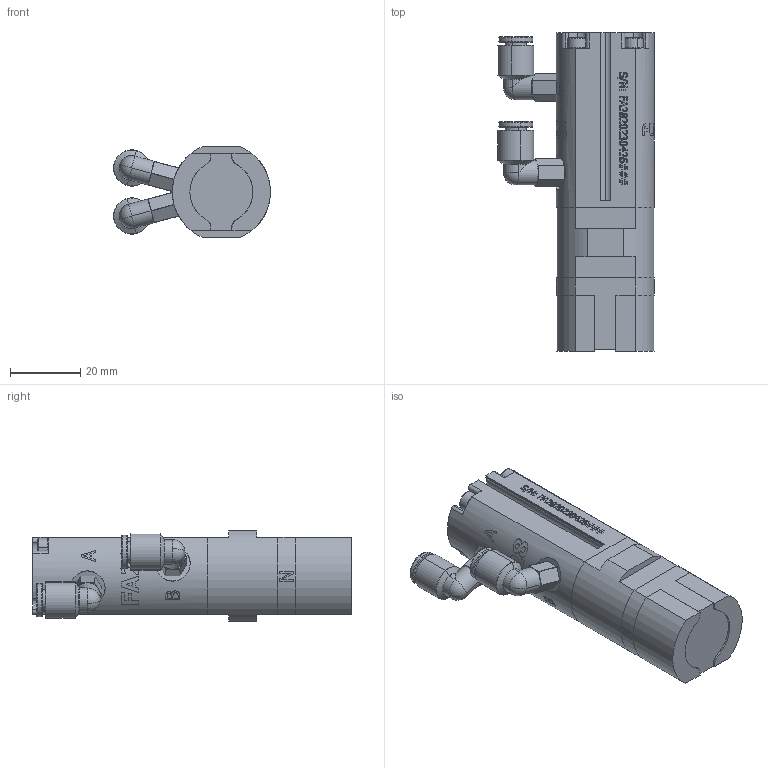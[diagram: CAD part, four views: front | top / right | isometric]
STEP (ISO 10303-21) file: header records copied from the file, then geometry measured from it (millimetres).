
FILE_DESCRIPTION (( 'STEP AP214' ), '1' );
FILE_NAME ('9970112_FA28-S-0 (FOR SHARE).STEP', '2024-02-27T03:45:36', ( '' ), ( '' ), 'SwSTEP 2.0', 'SolidWorks 2021', '' );
FILE_SCHEMA (( 'AUTOMOTIVE_DESIGN' ));
Length unit declared in the file: millimetre
Products named in the file (11): 180027_ M5-6mm_plug-in airport; 150048_M3X75_SHCS_304(FOR SHARE)_91292A316; 9070005 - FA28 (FOR SHARE); 110031_FA28 actuator top(FOR SHARE); 160029_2.5X8__SUS304_默认; 4060031_FA28 std flat pole kit_默认; 120039_FA28 std flat pole; 110030_FA28 base housing(FOR SHARE); 9970112_FA28-S-0 (FOR SHARE); 120040_FA28 shunt(FOR SHARE); 160030_2.5X12__SUS304_默认
Assembly tree (17 placements, depth 3):
  9970112_FA28-S-0 (FOR SHARE)
    9070005 - FA28 (FOR SHARE)
      110031_FA28 actuator top(FOR SHARE)
      110030_FA28 base housing(FOR SHARE)
      120040_FA28 shunt(FOR SHARE)
      150048_M3X75_SHCS_304(FOR SHARE)_91292A316  x4
      160029_2.5X8__SUS304_默认  x2
      160030_2.5X12__SUS304_默认  x2
    4060031_FA28 std flat pole kit_默认
      120039_FA28 std flat pole  x2
    180027_ M5-6mm_plug-in airport  x2
Bounding box: 44.78 x 91 x 26 mm (x, y, z)
Volume: 47252.5 mm3; surface area: 23996.4 mm2
Topology: 13 solids, 19 shells, 595 faces, 1815 edges, 1277 vertices
Faces by surface type: cylinder 257, plane 156, cone 124, sphere 28, torus 26, bspline 4
Entity records: 19271 total; most frequent: CARTESIAN_POINT 6004, ORIENTED_EDGE 2590, DIRECTION 2205, EDGE_CURVE 1299, VERTEX_POINT 1012, AXIS2_PLACEMENT_3D 816, LINE 573, VECTOR 573
